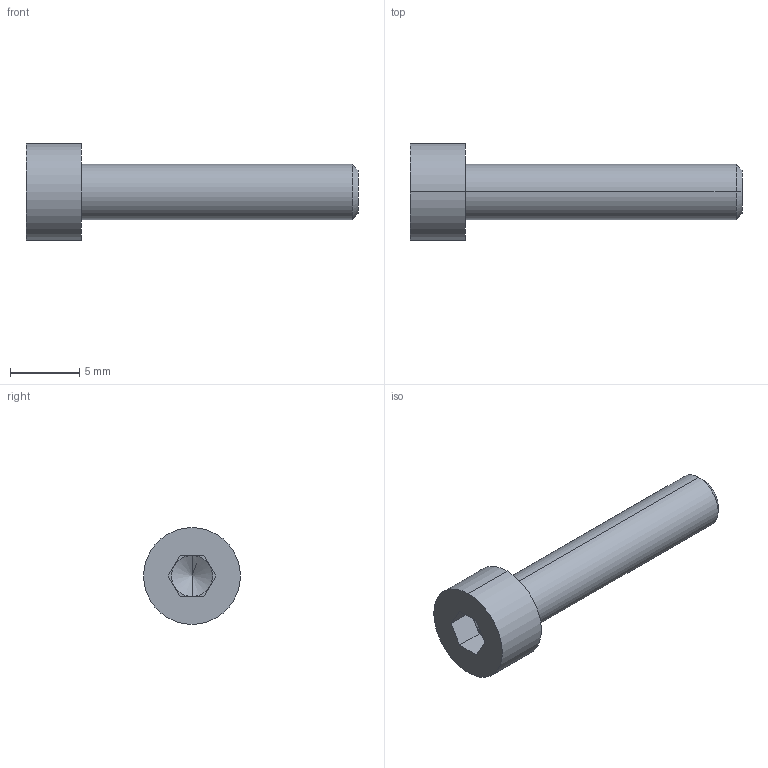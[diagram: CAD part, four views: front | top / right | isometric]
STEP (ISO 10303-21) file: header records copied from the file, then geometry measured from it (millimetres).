
FILE_DESCRIPTION (( 'STEP AP214' ), '1' );
FILE_NAME ('M4x20_DIN912.STEP', '2016-05-08T07:50:44', ( '' ), ( '' ), 'SwSTEP 2.0', 'SolidWorks 2014', '' );
FILE_SCHEMA (( 'AUTOMOTIVE_DESIGN' ));
Length unit declared in the file: millimetre
Products named in the file (1): M4x20_DIN912
Bounding box: 24 x 7 x 7 mm (x, y, z)
Volume: 386.6 mm3; surface area: 434.7 mm2
Topology: 1 solids, 1 shells, 18 faces, 40 edges, 25 vertices
Faces by surface type: plane 10, cylinder 4, cone 4
Entity records: 718 total; most frequent: DIRECTION 88, CARTESIAN_POINT 82, ORIENTED_EDGE 76, EDGE_CURVE 38, AXIS2_PLACEMENT_3D 31, LINE 26, VECTOR 26, VERTEX_POINT 25
